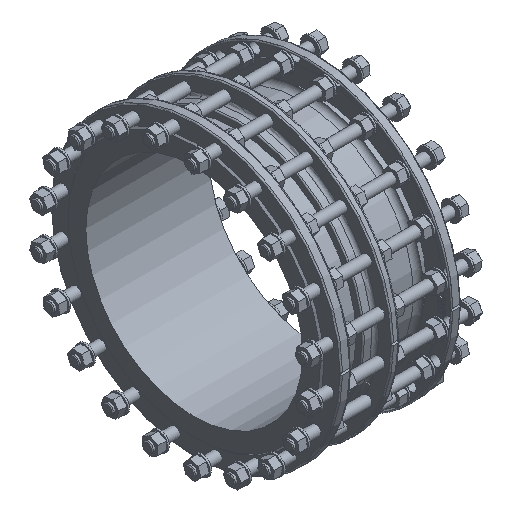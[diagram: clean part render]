
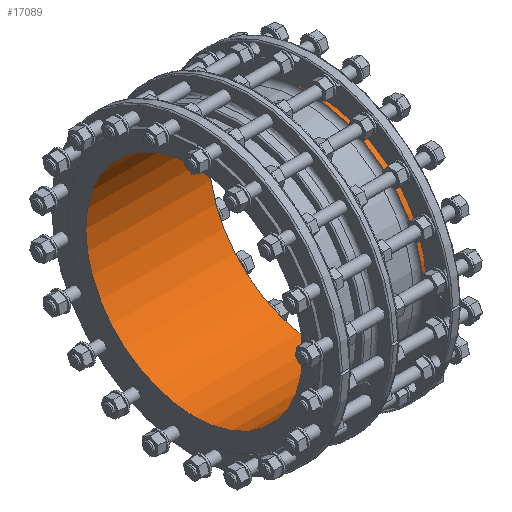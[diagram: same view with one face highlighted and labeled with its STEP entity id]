
A CAD part, isometric view. The second image highlights one B-rep face of the part: STEP entity #17089.
In plain terms, the highlighted cylindrical face has radius 250 mm (diameter 500 mm), a full revolution.
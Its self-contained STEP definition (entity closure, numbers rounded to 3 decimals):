
#231 = DIRECTION ( 'NONE',  ( 0., 0., 1. ) ) ;
#1184 = VERTEX_POINT ( 'NONE', #8660 ) ;
#4439 = ORIENTED_EDGE ( 'NONE', *, *, #10755, .F. ) ;
#6074 = DIRECTION ( 'NONE',  ( -1., 0., 0. ) ) ;
#6583 = CIRCLE ( 'NONE', #7731, 250. ) ;
#7731 = AXIS2_PLACEMENT_3D ( 'NONE', #25416, #34079, #17778 ) ;
#7864 = AXIS2_PLACEMENT_3D ( 'NONE', #13968, #18928, #16809 ) ;
#8123 = AXIS2_PLACEMENT_3D ( 'NONE', #19223, #6074, #231 ) ;
#8459 = FACE_OUTER_BOUND ( 'NONE', #9007, .T. ) ;
#8660 = CARTESIAN_POINT ( 'NONE',  ( 215., 0., 250. ) ) ;
#9007 = EDGE_LOOP ( 'NONE', ( #33950 ) ) ;
#9572 = EDGE_CURVE ( 'NONE', #1184, #1184, #33582, .T. ) ;
#10755 = EDGE_CURVE ( 'NONE', #31341, #31341, #6583, .T. ) ;
#13968 = CARTESIAN_POINT ( 'NONE',  ( 0., 0., 0. ) ) ;
#15410 = EDGE_LOOP ( 'NONE', ( #4439 ) ) ;
#16809 = DIRECTION ( 'NONE',  ( 0., 0., 1. ) ) ;
#17089 = ADVANCED_FACE ( 'NONE', ( #8459, #19279 ), #35068, .F. ) ;
#17778 = DIRECTION ( 'NONE',  ( 0., 0., -1. ) ) ;
#18928 = DIRECTION ( 'NONE',  ( -1., 0., 0. ) ) ;
#19223 = CARTESIAN_POINT ( 'NONE',  ( 215., 0., 0. ) ) ;
#19279 = FACE_OUTER_BOUND ( 'NONE', #15410, .T. ) ;
#20351 = CARTESIAN_POINT ( 'NONE',  ( -70., 0., -250. ) ) ;
#25416 = CARTESIAN_POINT ( 'NONE',  ( -70., 0., 0. ) ) ;
#31341 = VERTEX_POINT ( 'NONE', #20351 ) ;
#33582 = CIRCLE ( 'NONE', #8123, 250. ) ;
#33950 = ORIENTED_EDGE ( 'NONE', *, *, #9572, .F. ) ;
#34079 = DIRECTION ( 'NONE',  ( 1., 0., 0. ) ) ;
#35068 = CYLINDRICAL_SURFACE ( 'NONE', #7864, 250. ) ;
